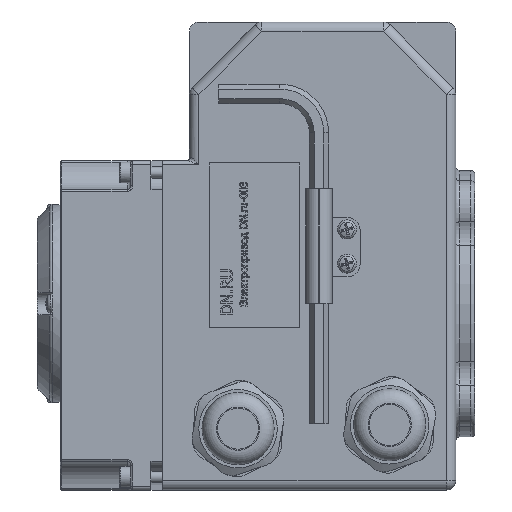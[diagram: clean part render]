
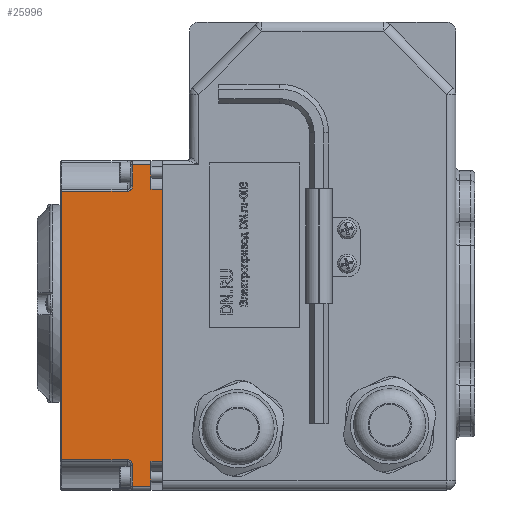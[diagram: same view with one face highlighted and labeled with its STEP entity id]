
A CAD part, left-side view. The second image highlights one B-rep face of the part: STEP entity #25996.
In plain terms, the highlighted planar face has unit normal (-1, 0, 0).
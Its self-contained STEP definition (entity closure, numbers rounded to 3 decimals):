
#1197=PLANE('',#28007);
#2562=LINE('',#44415,#4454);
#2564=LINE('',#44456,#4456);
#2567=LINE('',#44460,#4459);
#2576=LINE('',#44577,#4468);
#2578=LINE('',#44619,#4470);
#2641=LINE('',#45274,#4533);
#2643=LINE('',#45280,#4535);
#2648=LINE('',#45293,#4540);
#3091=LINE('',#47792,#4983);
#3092=LINE('',#47801,#4984);
#3093=LINE('',#47807,#4985);
#3094=LINE('',#47809,#4986);
#4454=VECTOR('',#32174,10.);
#4456=VECTOR('',#32180,10.);
#4459=VECTOR('',#32185,10.);
#4468=VECTOR('',#32228,10.);
#4470=VECTOR('',#32236,10.);
#4533=VECTOR('',#32539,10.);
#4535=VECTOR('',#32545,10.);
#4540=VECTOR('',#32558,10.);
#4983=VECTOR('',#33805,10.);
#4984=VECTOR('',#33818,10.);
#4985=VECTOR('',#33827,10.);
#4986=VECTOR('',#33830,10.);
#6774=FACE_OUTER_BOUND('',#8270,.T.);
#8270=EDGE_LOOP('',(#22866,#22867,#22868,#22869,#22870,#22871,#22872,#22873,
#22874,#22875,#22876,#22877,#22878,#22879));
#9732=B_SPLINE_CURVE_WITH_KNOTS('',3,(#44450,#44451,#44452,#44453,#44454),
 .UNSPECIFIED.,.F.,.F.,(4,1,4),(0.,0.101,0.236),
 .UNSPECIFIED.);
#9738=B_SPLINE_CURVE_WITH_KNOTS('',3,(#44611,#44612,#44613,#44614,#44615),
 .UNSPECIFIED.,.F.,.F.,(4,1,4),(0.,0.101,0.236),
 .UNSPECIFIED.);
#11697=VERTEX_POINT('',#44313);
#11704=VERTEX_POINT('',#44331);
#11715=VERTEX_POINT('',#44408);
#11716=VERTEX_POINT('',#44413);
#11718=VERTEX_POINT('',#44448);
#11730=VERTEX_POINT('',#44575);
#11731=VERTEX_POINT('',#44609);
#11732=VERTEX_POINT('',#44617);
#11812=VERTEX_POINT('',#45272);
#11814=VERTEX_POINT('',#45278);
#11818=VERTEX_POINT('',#45292);
#12228=VERTEX_POINT('',#47791);
#12229=VERTEX_POINT('',#47798);
#12230=VERTEX_POINT('',#47800);
#14928=EDGE_CURVE('',#11716,#11715,#2562,.T.);
#14932=EDGE_CURVE('',#11718,#11716,#9732,.T.);
#14933=EDGE_CURVE('',#11704,#11718,#2564,.T.);
#14936=EDGE_CURVE('',#11697,#11704,#2567,.T.);
#14960=EDGE_CURVE('',#11730,#11697,#2576,.T.);
#14964=EDGE_CURVE('',#11731,#11730,#9738,.T.);
#14966=EDGE_CURVE('',#11732,#11731,#2578,.T.);
#15110=EDGE_CURVE('',#11812,#11732,#2641,.T.);
#15113=EDGE_CURVE('',#11812,#11814,#2643,.T.);
#15119=EDGE_CURVE('',#11715,#11818,#2648,.T.);
#15841=EDGE_CURVE('',#12228,#11818,#3091,.T.);
#15846=EDGE_CURVE('',#12230,#12229,#3092,.T.);
#15849=EDGE_CURVE('',#12229,#12228,#3093,.T.);
#15850=EDGE_CURVE('',#12230,#11814,#3094,.T.);
#22866=ORIENTED_EDGE('',*,*,#14966,.F.);
#22867=ORIENTED_EDGE('',*,*,#15110,.F.);
#22868=ORIENTED_EDGE('',*,*,#15113,.T.);
#22869=ORIENTED_EDGE('',*,*,#15850,.F.);
#22870=ORIENTED_EDGE('',*,*,#15846,.T.);
#22871=ORIENTED_EDGE('',*,*,#15849,.T.);
#22872=ORIENTED_EDGE('',*,*,#15841,.T.);
#22873=ORIENTED_EDGE('',*,*,#15119,.F.);
#22874=ORIENTED_EDGE('',*,*,#14928,.F.);
#22875=ORIENTED_EDGE('',*,*,#14932,.F.);
#22876=ORIENTED_EDGE('',*,*,#14933,.F.);
#22877=ORIENTED_EDGE('',*,*,#14936,.F.);
#22878=ORIENTED_EDGE('',*,*,#14960,.F.);
#22879=ORIENTED_EDGE('',*,*,#14964,.F.);
#25996=ADVANCED_FACE('',(#6774),#1197,.T.);
#28007=AXIS2_PLACEMENT_3D('',#47808,#33828,#33829);
#32174=DIRECTION('',(0.,0.,1.));
#32180=DIRECTION('',(0.,-1.,0.));
#32185=DIRECTION('',(0.,0.,1.));
#32228=DIRECTION('',(0.,1.,0.));
#32236=DIRECTION('',(0.,0.,1.));
#32539=DIRECTION('',(0.,1.,0.));
#32545=DIRECTION('',(0.,0.,1.));
#32558=DIRECTION('',(0.,-1.,0.));
#33805=DIRECTION('',(0.,0.,1.));
#33818=DIRECTION('',(0.,0.,1.));
#33827=DIRECTION('',(0.,1.,0.));
#33828=DIRECTION('center_axis',(-1.,0.,0.));
#33829=DIRECTION('ref_axis',(0.,0.,
1.));
#33830=DIRECTION('',(0.,1.,0.));
#44313=CARTESIAN_POINT('',(-39.5,68.5,-41.016));
#44331=CARTESIAN_POINT('',(-39.5,68.5,29.516));
#44408=CARTESIAN_POINT('',(-39.5,49.9,36.5));
#44413=CARTESIAN_POINT('',(-39.5,49.9,31.019));
#44415=CARTESIAN_POINT('',(-39.5,49.9,-3.875));
#44448=CARTESIAN_POINT('',(-39.5,51.4,29.516));
#44450=CARTESIAN_POINT('Ctrl Pts',(-39.5,51.4,29.516));
#44451=CARTESIAN_POINT('Ctrl Pts',(-39.5,51.063,29.516));
#44452=CARTESIAN_POINT('Ctrl Pts',(-39.5,50.276,29.792));
#44453=CARTESIAN_POINT('Ctrl Pts',(-39.5,49.9,30.57));
#44454=CARTESIAN_POINT('Ctrl Pts',(-39.5,49.9,31.019));
#44456=CARTESIAN_POINT('',(-39.5,69.,29.516));
#44460=CARTESIAN_POINT('',(-39.5,68.5,-23.625));
#44575=CARTESIAN_POINT('',(-39.5,51.4,-41.016));
#44577=CARTESIAN_POINT('',(-39.5,69.,-41.016));
#44609=CARTESIAN_POINT('',(-39.5,49.9,-42.519));
#44611=CARTESIAN_POINT('Ctrl Pts',(-39.5,49.9,-42.519));
#44612=CARTESIAN_POINT('Ctrl Pts',(-39.5,49.9,-42.182));
#44613=CARTESIAN_POINT('Ctrl Pts',(-39.5,50.173,-41.395));
#44614=CARTESIAN_POINT('Ctrl Pts',(-39.5,50.951,-41.016));
#44615=CARTESIAN_POINT('Ctrl Pts',(-39.5,51.4,-41.016));
#44617=CARTESIAN_POINT('',(-39.5,49.9,-48.));
#44619=CARTESIAN_POINT('',(-39.5,49.9,-43.375));
#45272=CARTESIAN_POINT('',(-39.5,45.1,-48.));
#45274=CARTESIAN_POINT('',(-39.5,42.1,-48.));
#45278=CARTESIAN_POINT('',(-39.5,45.1,-41.5));
#45280=CARTESIAN_POINT('',(-39.5,45.1,-49.));
#45292=CARTESIAN_POINT('',(-39.5,45.1,36.5));
#45293=CARTESIAN_POINT('',(-39.5,42.1,36.5));
#47791=CARTESIAN_POINT('',(-39.5,45.1,30.));
#47792=CARTESIAN_POINT('',(-39.5,45.1,-49.));
#47798=CARTESIAN_POINT('',(-39.5,42.1,30.));
#47800=CARTESIAN_POINT('',(-39.5,42.1,-41.5));
#47801=CARTESIAN_POINT('',(-39.5,42.1,-49.));
#47807=CARTESIAN_POINT('',(-39.5,42.1,30.));
#47808=CARTESIAN_POINT('Origin',(-39.5,42.1,-41.5));
#47809=CARTESIAN_POINT('',(-39.5,42.1,-41.5));
